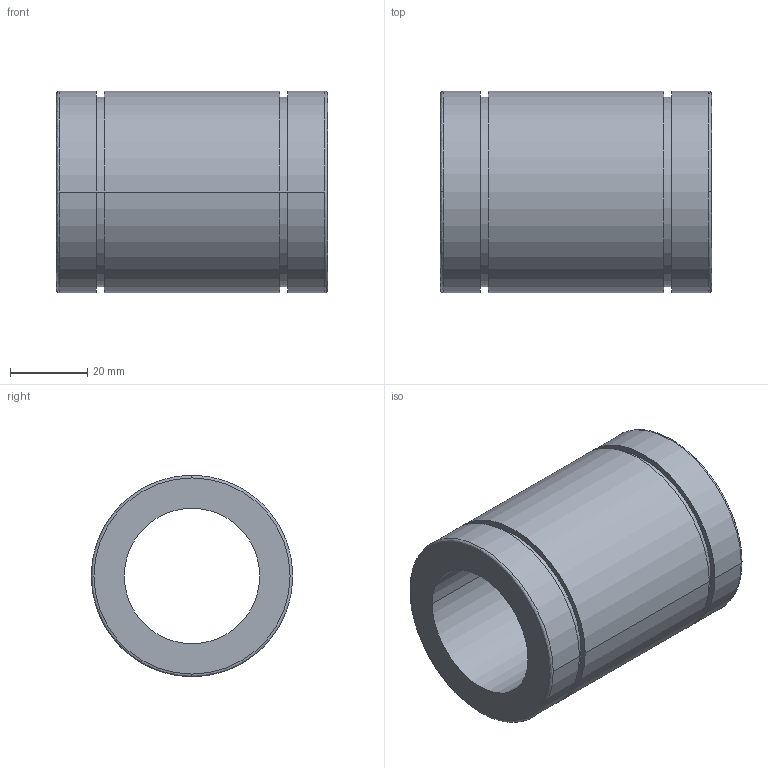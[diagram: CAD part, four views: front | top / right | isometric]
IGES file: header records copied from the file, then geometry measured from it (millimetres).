
Start section: 3D InterOp IGES (Version 21 0 1), Spatial Corp. Copyright (c) 1999-2007.
Global section: file name: N-35UU.igs; native system: Spatial Corp.; preprocessor: 3D InterOp GENERIC/IGES 3.0; author: Noname; organization: Noname; date: 20220311.144853; units: millimetre
Bounding box: 70 x 52 x 52 mm (x, y, z)
Surface area: 22269.2 mm2 (no closed solid volume)
Topology: 0 solids, 0 shells, 22 faces, 100 edges, 100 vertices
Faces by surface type: revolution 16, extrusion 6
